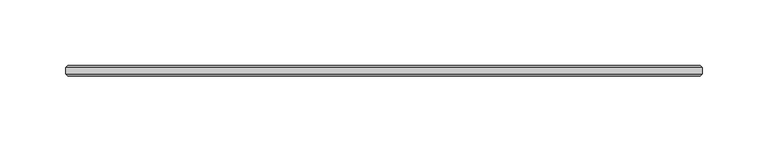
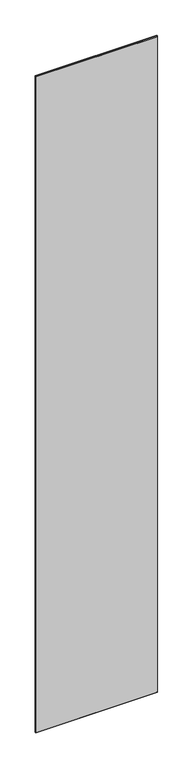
"""IFC4 building model written with IfcOpenShell, lengths in millimetres: plate geometry, 1-AMG-1-Панель одинарный витраж 8, 10 : Смещение 32 Толщина 8mm."""

from ifc_helpers import new_model, si_unit, origin, place, context, project, spatial, faceted_brep, source, transform, mapped, element, save


def plate_38fda3b0(model_context):
    return source(origin(), model_context, "Body", "Brep", [
        faceted_brep([(256.5, 29.5038347, 2751.0), (256.5, 34.4961653, 2751.0), (-228.5, 34.4961653, 2751.0), (-228.5, 29.5038347, 2751.0), (256.5, 34.4961653, -7.0), (256.5, 29.5038347, -7.0), (-228.5, 29.5038347, -7.0), (-228.5, 34.4961653, -7.0), (-226.9961653, 36.0, 2749.4961653), (254.9961653, 36.0, 2749.4961653), (254.9961653, 36.0, -5.5039422), (-226.9961653, 36.0, -5.5039422), (254.9961653, 28.0, 2749.4961653), (-226.9961653, 28.0, 2749.4961653), (-226.9961653, 28.0, -5.4961653), (254.9961653, 28.0, -5.4961653)], [[[0, 1, 2, 3]], [[4, 5, 6, 7]], [[8, 9, 10, 11]], [[3, 2, 7, 6]], [[12, 13, 14, 15]], [[1, 0, 5, 4]], [[1, 4, 10, 9]], [[5, 0, 12, 15]], [[7, 2, 8, 11]], [[3, 6, 14, 13]], [[0, 3, 13, 12]], [[2, 1, 9, 8]], [[6, 5, 15, 14]], [[4, 7, 11, 10]]]),
    ])


if __name__ == "__main__":
    model = new_model("IFC4")
    model_context = context("Model", 3, world=origin())
    ifc_project = project(units=[si_unit("LENGTHUNIT", "METRE", prefix="MILLI")], contexts=[model_context])
    site = spatial("IfcSite", under=ifc_project)
    building = spatial("IfcBuilding", under=site)
    placement = place(None, origin())
    plate_shape = plate_38fda3b0(model_context)
    element("IfcPlate", 1, ObjectType="1-AMG-1-Панель одинарный витраж 8, 10 : Смещение 32 Толщина 8mm", at=placement, inside=building, context=model_context, shape_type="MappedRepresentation", body=[
        mapped(plate_shape, transform((0.0, 0.0, 0.0), x_axis=(1.0, 0.0, 0.0), y_axis=(0.0, 1.0, 0.0), z_axis=(0.0, 0.0, 1.0))),
    ])
    save(model, "model.ifc")
